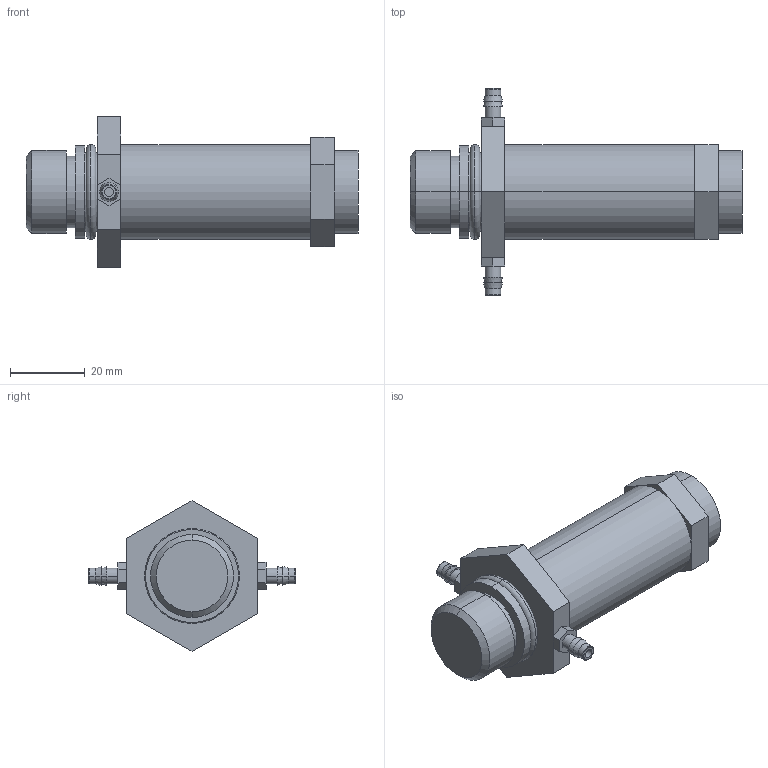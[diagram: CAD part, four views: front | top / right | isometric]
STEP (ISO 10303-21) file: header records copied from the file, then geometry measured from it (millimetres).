
FILE_DESCRIPTION((''),'2;1');
FILE_NAME('XFR2_ASM','2017-08-24T',('jennifer.elliott'),('CenterLine (Windsor) Ltd - Automation Components Division'),'PRO/ENGINEER BY PARAMETRIC TECHNOLOGY CORPORATION, 2015030','PRO/ENGINEER BY PARAMETRIC TECHNOLOGY CORPORATION, 2015030','');
FILE_SCHEMA(('AUTOMOTIVE_DESIGN { 1 0 10303 214 1 1 1 1 }'));
Length unit declared in the file: inch
Products named in the file (8): PRT1081; PRT1082; PRT1083; PRT1084; PRT1085; PRT1086; PRT1087; XFR2_ASM
Assembly tree (7 placements, depth 2):
  XFR2_ASM
    PRT1081
    PRT1082
    PRT1083
    PRT1084
    PRT1085
    PRT1086
    PRT1087
Bounding box: 88.9 x 55.55 x 40.33 mm (x, y, z)
Volume: 46341.1 mm3; surface area: 13792.4 mm2
Topology: 7 solids, 7 shells, 92 faces, 192 edges, 122 vertices
Faces by surface type: plane 46, cylinder 24, torus 12, cone 10
Entity records: 2980 total; most frequent: DIRECTION 492, CARTESIAN_POINT 443, ORIENTED_EDGE 384, AXIS2_PLACEMENT_3D 193, EDGE_CURVE 192, VERTEX_POINT 122, VECTOR 106, LINE 106
